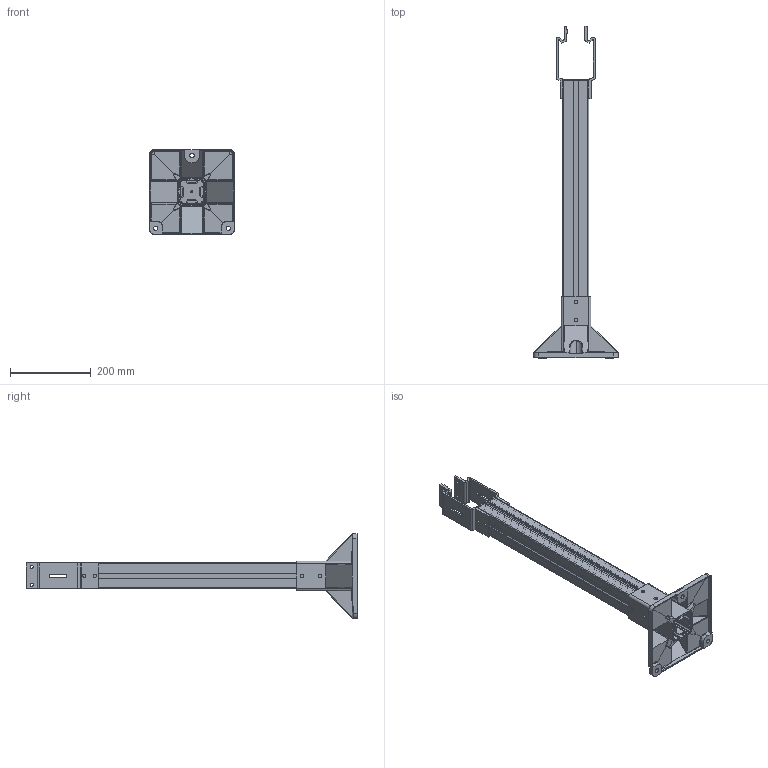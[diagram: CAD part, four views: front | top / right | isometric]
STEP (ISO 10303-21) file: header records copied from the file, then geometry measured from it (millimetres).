
FILE_DESCRIPTION (( 'STEP AP214' ), '1' );
FILE_NAME ('FKPC64.STEP', '2012-10-11T06:37:36', ( 'gs' ), ( 'Microsoft' ), 'SwSTEP 2.0', 'SolidWorks 2012', '' );
FILE_SCHEMA (( 'AUTOMOTIVE_DESIGN' ));
Length unit declared in the file: millimetre
Products named in the file (5): FBEC-64; FAVBS-60K; TC64; EC210-64; FKPC64
Assembly tree (5 placements, depth 2):
  FKPC64
    EC210-64
    TC64
    FAVBS-60K  x2
    FBEC-64
Bounding box: 210 x 823.58 x 210 mm (x, y, z)
Volume: 1086723.9 mm3; surface area: 814694 mm2
Topology: 5 solids, 5 shells, 758 faces, 2127 edges, 1380 vertices
Faces by surface type: cylinder 371, plane 334, bspline 37, sphere 8, cone 4, torus 4
Entity records: 23943 total; most frequent: CARTESIAN_POINT 5444, ORIENTED_EDGE 3968, DIRECTION 3837, EDGE_CURVE 1984, AXIS2_PLACEMENT_3D 1323, VERTEX_POINT 1288, LINE 1191, VECTOR 1191
